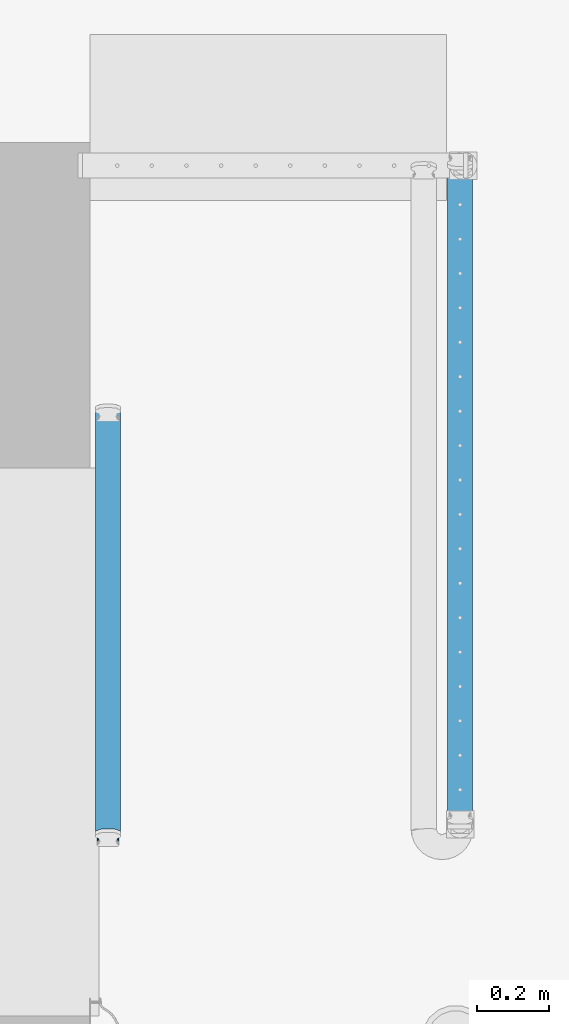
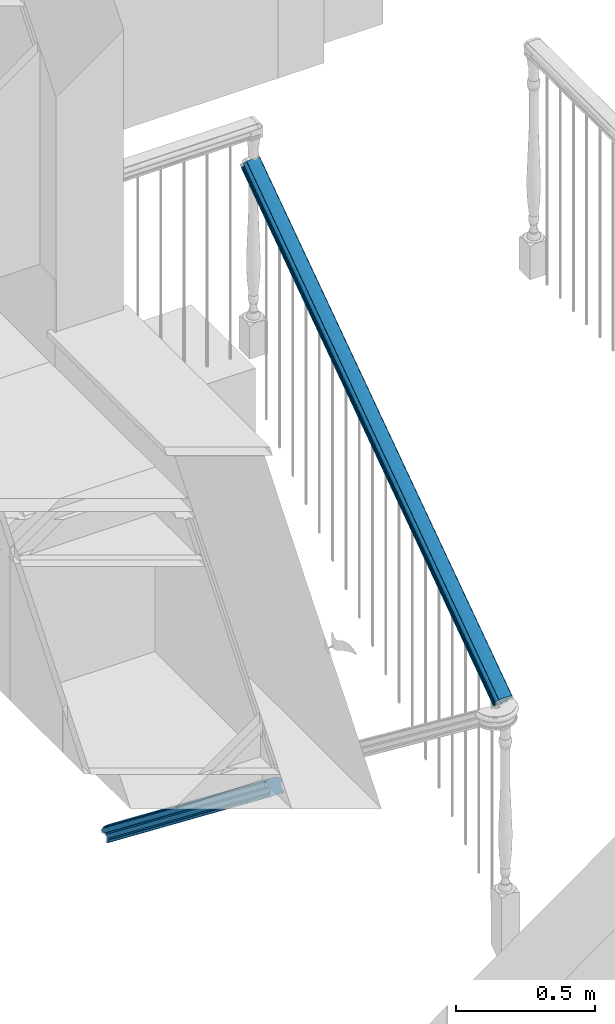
# One storey, part 12 of 77: 2 building element parts, 2 elements without a shape of their own.
"""IFC2X3 building model written with IfcOpenShell, lengths in inches."""

from ifc_helpers import new_model, entity, si_unit, converted_unit, derived_unit, money_unit, direction, frame, origin_with_axes, place, context, subcontext, project, spatial, faceted_brep, material, type_object, element, aggregate, save


model = new_model("IFC2X3")

# Units and contexts
model_context = context("Model", 3, precision=0.000393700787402, world=origin_with_axes(), true_north=direction((0.0, 1.0)))
body_context = subcontext(model_context, "Body", "Model", "MODEL_VIEW")
ifc_project = project(units=[converted_unit("LENGTHUNIT", "INCH", entity("IfcPositiveLengthMeasure", 0.0254), si_unit("LENGTHUNIT", "METRE"), dimensions=[1, 0, 0, 0, 0, 0, 0]), converted_unit("AREAUNIT", "SQUARE_FOOT", entity("IfcPositiveLengthMeasure", 0.09290304), si_unit("AREAUNIT", "SQUARE_METRE"), dimensions=[2, 0, 0, 0, 0, 0, 0]), si_unit("PLANEANGLEUNIT", "RADIAN"), si_unit("SOLIDANGLEUNIT", "STERADIAN"), money_unit("USD"), converted_unit("TIMEUNIT", "Year", entity("IfcTimeMeasure", 31556926.0), si_unit("TIMEUNIT", "SECOND"), dimensions=[0, 0, 1, 0, 0, 0, 0]), si_unit("MASSUNIT", "GRAM", prefix="KILO"), si_unit("THERMODYNAMICTEMPERATUREUNIT", "DEGREE_CELSIUS"), si_unit("LUMINOUSINTENSITYUNIT", "LUMEN"), si_unit("ENERGYUNIT", "JOULE", prefix="MEGA"), derived_unit("THERMALCONDUCTANCEUNIT", [(si_unit("POWERUNIT", "WATT"), 1), (si_unit("LENGTHUNIT", "METRE"), -1), (si_unit("THERMODYNAMICTEMPERATUREUNIT", "KELVIN"), -1)]), derived_unit("SPECIFICHEATCAPACITYUNIT", [(si_unit("ENERGYUNIT", "JOULE"), 1), (si_unit("MASSUNIT", "GRAM", prefix="KILO"), -1), (si_unit("THERMODYNAMICTEMPERATUREUNIT", "KELVIN"), -1)]), derived_unit("MASSDENSITYUNIT", [(si_unit("MASSUNIT", "GRAM", prefix="KILO"), 1), (si_unit("VOLUMEUNIT", "CUBIC_METRE"), -1)])], contexts=[model_context])

# Site, building, storey
site_placement = place(None, origin_with_axes())
site = spatial("IfcSite", under=ifc_project, at=site_placement, Name="Site", CompositionType="ELEMENT")
building_placement = place(site_placement, origin_with_axes())
building = spatial("IfcBuilding", under=site, at=building_placement, Name="Building", CompositionType="ELEMENT")
storey_placement = place(building_placement, frame((0.0, 0.0, 127.952755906), z_axis=(0.0, 0.0, 1.0), x_axis=(1.0, 0.0, 0.0)))
storey = spatial("IfcBuildingStorey", under=building, at=storey_placement, Name="Second Floor", CompositionType="ELEMENT", Elevation=127.953)

# Railing, building element part
railing_type = type_object("IfcRailingType", Name="Railing Type", PredefinedType="NOTDEFINED")
railing_1_placement = place(storey_placement, frame((643.989643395, 72.4015497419, -92.1176470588), z_axis=(0.0, 0.0, 1.0), x_axis=(-1.0, 0.0, 0.0)))
railing_1 = element("IfcRailing", 1, at=railing_1_placement, inside=storey, type_object=railing_type, Name="RAILING - 001", PredefinedType="NOTDEFINED")
ifc_material = material(Name="Wood - Structural")
building_element_part_1_placement = place(railing_1_placement, origin_with_axes())
building_element_part_1 = element("IfcBuildingElementPart", 2, at=building_element_part_1_placement, material=ifc_material, Name="Wood - Structural", context=body_context, shape_type="Brep", body=[
    faceted_brep([(-2.95870018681, 0.075407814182, 75.7856225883), (-2.95870018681, 0.150815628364, 75.6888922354), (-2.9587001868, -45.8777385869, 39.8065392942), (-2.9587001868, -45.9531464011, 39.9032696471), (-2.90015196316, 0.0666488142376, 75.7968583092), (-2.53034410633, 0.0240545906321, 75.8514966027), (-2.15626030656, 0.00267612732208, 75.8789201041), (-1.78074756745, 0.00267612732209, 75.8789201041), (-1.40666376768, 0.0240545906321, 75.8514966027), (-1.03685591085, 0.0666488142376, 75.7968583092), (-0.97830768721, 0.0754078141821, 75.7856225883), (-0.97830768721, 0.150815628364, 75.6888922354), (-0.944769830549, 0.151772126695, 75.6876652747), (-0.878713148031, 0.159380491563, 75.6779055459), (-0.815682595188, 0.174366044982, 75.6586826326), (-0.757593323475, 0.196273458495, 75.6305806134), (-0.706210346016, 0.224437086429, 75.5944533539), (-0.663094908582, 0.258001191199, 75.5513985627), (-0.629557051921, 0.295945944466, 75.5027244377), (-0.606615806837, 0.337118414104, 75.4499099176), (-0.594968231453, 0.380267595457, 75.3945597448), (-0.594968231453, 0.424082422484, 75.3383557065), (-0.606615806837, 0.467231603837, 75.2830055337), (-0.629557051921, 0.508404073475, 75.2301910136), (-0.663094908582, 0.546348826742, 75.1815168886), (-0.706210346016, 0.579912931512, 75.1384620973), (-0.757593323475, 0.608076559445, 75.1023348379), (-0.815682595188, 0.629983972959, 75.0742328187), (-0.878713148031, 0.644969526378, 75.0550099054), (-0.944769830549, 0.652577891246, 75.0452501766), (-0.97830768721, 0.653534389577, 75.0440232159), (-0.97830768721, 0.77921407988, 74.8828059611), (-1.00088455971, 0.798547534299, 74.8580057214), (-1.04067773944, 0.843569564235, 74.8002531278), (-1.06789787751, 0.892421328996, 74.7375878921), (-1.08171790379, 0.943618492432, 74.6719140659), (-1.08171790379, 0.995605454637, 74.605227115), (-1.06789787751, 1.04680261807, 74.5395532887), (-1.04067773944, 1.09565438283, 74.4768880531), (-1.00088455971, 1.14067641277, 74.4191354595), (-0.97830768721, 1.16000986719, 74.3943352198), (-0.97830768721, 1.28568955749, 74.2331179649), (-0.96153875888, 1.28616780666, 74.2325044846), (-0.928510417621, 1.28997198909, 74.2276246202), (-0.896995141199, 1.2974647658, 74.2180131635), (-0.867950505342, 1.30841847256, 74.203962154), (-0.842259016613, 1.32250028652, 74.1858985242), (-0.820701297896, 1.33928233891, 74.1643711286), (-0.803932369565, 1.35825471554, 74.1400340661), (-0.792461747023, 1.37884095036, 74.113626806), (-0.786637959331, 1.40041554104, 74.0859517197), (-0.786637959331, 1.42232295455, 74.0578497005), (-0.792461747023, 1.44389754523, 74.0301746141), (-0.803932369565, 1.46448378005, 74.0037673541), (-0.820701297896, 1.48345615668, 73.9794302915), (-0.842259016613, 1.50023820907, 73.9579028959), (-0.867950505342, 1.51432002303, 73.9398392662), (-0.896995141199, 1.52527372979, 73.9257882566), (-0.928510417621, 1.5327665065, 73.9161768), (-0.96153875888, 1.53657068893, 73.9112969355), (-0.97830768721, 1.5370489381, 73.9106834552), (-2.95870018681, 1.5370489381, 73.9106834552), (-2.97546911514, 1.53657068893, 73.9112969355), (-3.0084974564, 1.5327665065, 73.9161768), (-3.04001273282, 1.52527372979, 73.9257882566), (-3.06905736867, 1.51432002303, 73.9398392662), (-3.0947488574, 1.50023820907, 73.9579028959), (-3.11630657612, 1.48345615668, 73.9794302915), (-3.13307550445, 1.46448378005, 74.0037673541), (-3.14454612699, 1.44389754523, 74.0301746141), (-3.15036991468, 1.42232295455, 74.0578497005), (-3.15036991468, 1.40041554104, 74.0859517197), (-3.14454612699, 1.37884095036, 74.113626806), (-3.13307550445, 1.35825471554, 74.1400340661), (-3.11630657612, 1.33928233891, 74.1643711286), (-3.0947488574, 1.32250028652, 74.1858985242), (-3.06905736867, 1.30841847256, 74.203962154), (-3.04001273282, 1.2974647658, 74.2180131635), (-3.0084974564, 1.28997198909, 74.2276246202), (-2.97546911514, 1.28616780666, 74.2325044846), (-2.95870018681, 1.28568955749, 74.2331179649), (-2.95870018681, 1.16000986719, 74.3943352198), (-2.93612331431, 1.14067641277, 74.4191354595), (-2.89633013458, 1.09565438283, 74.4768880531), (-2.86910999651, 1.04680261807, 74.5395532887), (-2.85528997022, 0.995605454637, 74.605227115), (-2.85528997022, 0.943618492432, 74.6719140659), (-2.86910999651, 0.892421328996, 74.7375878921), (-2.89633013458, 0.843569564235, 74.8002531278), (-2.93612331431, 0.798547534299, 74.8580057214), (-2.95870018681, 0.77921407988, 74.8828059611), (-2.95870018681, 0.653534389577, 75.0440232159), (-2.99223804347, 0.652577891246, 75.0452501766), (-3.05829472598, 0.644969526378, 75.0550099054), (-3.12132527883, 0.629983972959, 75.0742328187), (-3.17941455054, 0.608076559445, 75.1023348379), (-3.230797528, 0.579912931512, 75.1384620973), (-3.27391296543, 0.546348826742, 75.1815168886), (-3.30745082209, 0.508404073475, 75.2301910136), (-3.33039206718, 0.467231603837, 75.2830055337), (-3.34203964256, 0.424082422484, 75.3383557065), (-3.34203964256, 0.380267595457, 75.3945597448), (-3.33039206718, 0.337118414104, 75.4499099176), (-3.30745082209, 0.295945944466, 75.5027244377), (-3.27391296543, 0.258001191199, 75.5513985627), (-3.230797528, 0.224437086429, 75.5944533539), (-3.17941455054, 0.196273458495, 75.6305806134), (-3.12132527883, 0.174366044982, 75.6586826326), (-3.05829472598, 0.159380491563, 75.6779055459), (-2.99223804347, 0.151772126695, 75.6876652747), (-2.99223804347, -45.8767820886, 39.8053123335), (-3.05829472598, -45.8691737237, 39.7955526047), (-3.12132527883, -45.8541881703, 39.7763296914), (-3.17941455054, -45.8322807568, 39.7482276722), (-3.230797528, -45.8041171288, 39.7121004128), (-3.27391296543, -45.7705530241, 39.6690456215), (-3.30745082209, -45.7326082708, 39.6203714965), (-3.33039206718, -45.6914358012, 39.5675569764), (-3.34203964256, -45.6482866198, 39.5122068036), (-3.34203964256, -45.6044717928, 39.4560027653), (-3.33039206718, -45.5613226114, 39.4006525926), (-3.30745082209, -45.5201501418, 39.3478380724), (-3.27391296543, -45.4822053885, 39.2991639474), (-3.230797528, -45.4486412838, 39.2561091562), (-3.17941455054, -45.4204776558, 39.2199818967), (-3.12132527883, -45.3985702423, 39.1918798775), (-3.05829472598, -45.3835846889, 39.1726569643), (-2.99223804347, -45.375976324, 39.1628972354), (-2.9587001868, -45.3750198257, 39.1616702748), (-2.9587001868, -45.2493401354, 39.0004530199), (-2.93612331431, -45.230006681, 38.9756527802), (-2.89633013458, -45.184984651, 38.9179001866), (-2.86910999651, -45.1361328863, 38.855234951), (-2.85528997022, -45.0849357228, 38.7895611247), (-2.85528997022, -45.0329487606, 38.7228741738), (-2.86910999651, -44.9817515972, 38.6572003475), (-2.89633013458, -44.9328998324, 38.5945351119), (-2.93612331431, -44.8878778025, 38.5367825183), (-2.9587001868, -44.8685443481, 38.5119822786), (-2.9587001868, -44.7428646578, 38.3507650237), (-2.97546911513, -44.7423864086, 38.3501515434), (-3.00849745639, -44.7385822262, 38.345271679), (-3.04001273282, -44.7310894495, 38.3356602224), (-3.06905736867, -44.7201357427, 38.3216092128), (-3.0947488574, -44.7060539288, 38.303545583), (-3.11630657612, -44.6892718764, 38.2820181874), (-3.13307550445, -44.6702994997, 38.2576811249), (-3.14454612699, -44.6497132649, 38.2312738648), (-3.15036991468, -44.6281386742, 38.2035987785), (-3.15036991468, -44.6062312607, 38.1754967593), (-3.14454612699, -44.5846566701, 38.1478216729), (-3.13307550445, -44.5640704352, 38.1214144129), (-3.11630657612, -44.5450980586, 38.0970773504), (-3.0947488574, -44.5283160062, 38.0755499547), (-3.06905736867, -44.5142341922, 38.057486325), (-3.04001273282, -44.5032804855, 38.0434353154), (-3.00849745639, -44.4957877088, 38.0338238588), (-2.97546911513, -44.4919835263, 38.0289439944), (-2.9587001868, -44.4915052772, 38.028330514), (-0.978307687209, -44.4915052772, 38.028330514), (-0.961538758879, -44.4919835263, 38.0289439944), (-0.92851041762, -44.4957877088, 38.0338238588), (-0.896995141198, -44.5032804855, 38.0434353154), (-0.867950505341, -44.5142341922, 38.057486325), (-0.842259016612, -44.5283160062, 38.0755499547), (-0.820701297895, -44.5450980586, 38.0970773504), (-0.803932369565, -44.5640704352, 38.1214144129), (-0.792461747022, -44.5846566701, 38.1478216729), (-0.78663795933, -44.6062312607, 38.1754967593), (-0.78663795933, -44.6281386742, 38.2035987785), (-0.792461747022, -44.6497132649, 38.2312738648), (-0.803932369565, -44.6702994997, 38.2576811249), (-0.820701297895, -44.6892718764, 38.2820181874), (-0.842259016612, -44.7060539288, 38.303545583), (-0.867950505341, -44.7201357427, 38.3216092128), (-0.896995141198, -44.7310894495, 38.3356602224), (-0.92851041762, -44.7385822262, 38.345271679), (-0.961538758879, -44.7423864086, 38.3501515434), (-0.978307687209, -44.7428646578, 38.3507650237), (-0.978307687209, -44.8685443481, 38.5119822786), (-1.00088455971, -44.8878778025, 38.5367825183), (-1.04067773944, -44.9328998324, 38.5945351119), (-1.06789787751, -44.9817515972, 38.6572003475), (-1.08171790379, -45.0329487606, 38.7228741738), (-1.08171790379, -45.0849357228, 38.7895611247), (-1.06789787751, -45.1361328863, 38.855234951), (-1.04067773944, -45.184984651, 38.9179001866), (-1.00088455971, -45.230006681, 38.9756527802), (-0.978307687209, -45.2493401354, 39.0004530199), (-0.978307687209, -45.3750198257, 39.1616702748), (-0.944769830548, -45.375976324, 39.1628972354), (-0.87871314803, -45.3835846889, 39.1726569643), (-0.815682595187, -45.3985702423, 39.1918798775), (-0.757593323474, -45.4204776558, 39.2199818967), (-0.706210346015, -45.4486412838, 39.2561091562), (-0.663094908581, -45.4822053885, 39.2991639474), (-0.62955705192, -45.5201501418, 39.3478380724), (-0.606615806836, -45.5613226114, 39.4006525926), (-0.594968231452, -45.6044717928, 39.4560027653), (-0.594968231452, -45.6482866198, 39.5122068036), (-0.606615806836, -45.6914358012, 39.5675569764), (-0.62955705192, -45.7326082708, 39.6203714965), (-0.663094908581, -45.7705530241, 39.6690456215), (-0.706210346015, -45.8041171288, 39.7121004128), (-0.757593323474, -45.8322807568, 39.7482276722), (-0.815682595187, -45.8541881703, 39.7763296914), (-0.87871314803, -45.8691737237, 39.7955526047), (-0.944769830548, -45.8767820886, 39.8053123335), (-0.978307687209, -45.8777385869, 39.8065392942), (-0.978307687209, -45.9531464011, 39.9032696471), (-1.03685591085, -45.961905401, 39.914505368), (-1.40666376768, -46.0044996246, 39.9691436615), (-1.78074756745, -46.025878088, 39.9965671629), (-2.15626030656, -46.025878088, 39.9965671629), (-2.53034410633, -46.0044996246, 39.9691436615), (-2.90015196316, -45.961905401, 39.914505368)], [[[0, 1, 2, 3]], [[0, 4, 5, 6, 7, 8, 9, 10, 11, 12, 13, 14, 15, 16, 17, 18, 19, 20, 21, 22, 23, 24, 25, 26, 27, 28, 29, 30, 31, 32, 33, 34, 35, 36, 37, 38, 39, 40, 41, 42, 43, 44, 45, 46, 47, 48, 49, 50, 51, 52, 53, 54, 55, 56, 57, 58, 59, 60, 61, 62, 63, 64, 65, 66, 67, 68, 69, 70, 71, 72, 73, 74, 75, 76, 77, 78, 79, 80, 81, 82, 83, 84, 85, 86, 87, 88, 89, 90, 91, 92, 93, 94, 95, 96, 97, 98, 99, 100, 101, 102, 103, 104, 105, 106, 107, 108, 109, 1]], [[1, 109, 110, 2]], [[3, 2, 110, 111, 112, 113, 114, 115, 116, 117, 118, 119, 120, 121, 122, 123, 124, 125, 126, 127, 128, 129, 130, 131, 132, 133, 134, 135, 136, 137, 138, 139, 140, 141, 142, 143, 144, 145, 146, 147, 148, 149, 150, 151, 152, 153, 154, 155, 156, 157, 158, 159, 160, 161, 162, 163, 164, 165, 166, 167, 168, 169, 170, 171, 172, 173, 174, 175, 176, 177, 178, 179, 180, 181, 182, 183, 184, 185, 186, 187, 188, 189, 190, 191, 192, 193, 194, 195, 196, 197, 198, 199, 200, 201, 202, 203, 204, 205, 206, 207, 208, 209, 210, 211, 212, 213, 214, 215]], [[4, 0, 3, 215]], [[5, 4, 215, 214]], [[6, 5, 214, 213]], [[7, 6, 213, 212]], [[8, 7, 212, 211]], [[9, 8, 211, 210]], [[10, 9, 210, 209]], [[11, 10, 209, 208]], [[12, 11, 208, 207]], [[13, 12, 207, 206]], [[14, 13, 206, 205]], [[15, 14, 205, 204]], [[16, 15, 204, 203]], [[17, 16, 203, 202]], [[18, 17, 202, 201]], [[19, 18, 201, 200]], [[20, 19, 200, 199]], [[21, 20, 199, 198]], [[22, 21, 198, 197]], [[23, 22, 197, 196]], [[24, 23, 196, 195]], [[25, 24, 195, 194]], [[26, 25, 194, 193]], [[27, 26, 193, 192]], [[28, 27, 192, 191]], [[29, 28, 191, 190]], [[30, 29, 190, 189]], [[31, 30, 189, 188]], [[32, 31, 188, 187]], [[33, 32, 187, 186]], [[34, 33, 186, 185]], [[35, 34, 185, 184]], [[36, 35, 184, 183]], [[37, 36, 183, 182]], [[38, 37, 182, 181]], [[39, 38, 181, 180]], [[40, 39, 180, 179]], [[41, 40, 179, 178]], [[42, 41, 178, 177]], [[43, 42, 177, 176]], [[44, 43, 176, 175]], [[45, 44, 175, 174]], [[46, 45, 174, 173]], [[47, 46, 173, 172]], [[48, 47, 172, 171]], [[49, 48, 171, 170]], [[50, 49, 170, 169]], [[51, 50, 169, 168]], [[52, 51, 168, 167]], [[53, 52, 167, 166]], [[54, 53, 166, 165]], [[55, 54, 165, 164]], [[56, 55, 164, 163]], [[57, 56, 163, 162]], [[58, 57, 162, 161]], [[59, 58, 161, 160]], [[60, 59, 160, 159]], [[61, 60, 159, 158]], [[62, 61, 158, 157]], [[63, 62, 157, 156]], [[64, 63, 156, 155]], [[65, 64, 155, 154]], [[66, 65, 154, 153]], [[67, 66, 153, 152]], [[68, 67, 152, 151]], [[69, 68, 151, 150]], [[70, 69, 150, 149]], [[71, 70, 149, 148]], [[72, 71, 148, 147]], [[73, 72, 147, 146]], [[74, 73, 146, 145]], [[75, 74, 145, 144]], [[76, 75, 144, 143]], [[77, 76, 143, 142]], [[78, 77, 142, 141]], [[79, 78, 141, 140]], [[80, 79, 140, 139]], [[81, 80, 139, 138]], [[82, 81, 138, 137]], [[83, 82, 137, 136]], [[84, 83, 136, 135]], [[85, 84, 135, 134]], [[86, 85, 134, 133]], [[87, 86, 133, 132]], [[88, 87, 132, 131]], [[89, 88, 131, 130]], [[90, 89, 130, 129]], [[91, 90, 129, 128]], [[92, 91, 128, 127]], [[93, 92, 127, 126]], [[94, 93, 126, 125]], [[95, 94, 125, 124]], [[96, 95, 124, 123]], [[97, 96, 123, 122]], [[98, 97, 122, 121]], [[99, 98, 121, 120]], [[100, 99, 120, 119]], [[101, 100, 119, 118]], [[102, 101, 118, 117]], [[103, 102, 117, 116]], [[104, 103, 116, 115]], [[105, 104, 115, 114]], [[106, 105, 114, 113]], [[107, 106, 113, 112]], [[108, 107, 112, 111]], [[109, 108, 111, 110]]]),
])
aggregate(railing_1, [building_element_part_1])

railing_2_placement = place(storey_placement, frame((682.459998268, 144.881628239, -56.1089279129), z_axis=(0.0, 0.0, 1.0), x_axis=(-1.0, 0.0, 0.0)))
railing_2 = element("IfcRailing", 3, at=railing_2_placement, inside=storey, type_object=railing_type, Name="RAILING - 001", PredefinedType="NOTDEFINED")
building_element_part_2_placement = place(railing_2_placement, origin_with_axes())
building_element_part_2 = element("IfcBuildingElementPart", 4, at=building_element_part_2_placement, material=ifc_material, Name="Wood - Structural", context=body_context, shape_type="Brep", body=[
    faceted_brep([(-0.97830768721, 0.439994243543, 89.6653057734), (-0.97830768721, 0.369904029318, 89.5646555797), (-0.978307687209, 71.8342755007, 39.7986996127), (-0.978307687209, 71.9043657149, 39.8993498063), (-1.03685591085, 0.448135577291, 89.6769968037), (-1.40666376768, 0.487726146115, 89.7338492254), (-1.78074756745, 0.507597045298, 89.7623840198), (-2.15626030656, 0.507597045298, 89.7623840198), (-2.53034410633, 0.487726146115, 89.7338492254), (-2.90015196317, 0.448135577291, 89.6769968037), (-2.95870018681, 0.439994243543, 89.6653057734), (-2.95870018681, 0.369904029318, 89.5646555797), (-2.99223804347, 0.369014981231, 89.5633788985), (-3.05829472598, 0.361943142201, 89.5532236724), (-3.12132527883, 0.348014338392, 89.5332217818), (-3.17941455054, 0.327651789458, 89.5039809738), (-3.230797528, 0.301474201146, 89.4663897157), (-3.27391296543, 0.270276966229, 89.4215901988), (-3.30745082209, 0.235007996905, 89.3709436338), (-3.33039206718, 0.196738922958, 89.3159888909), (-3.34203964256, 0.156632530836, 89.2583957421), (-3.34203964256, 0.115907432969, 89.1999141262), (-3.33039206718, 0.075801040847, 89.1423209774), (-3.30745082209, 0.0375319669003, 89.0873662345), (-3.27391296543, 0.00226299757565, 89.0367196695), (-3.230797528, -0.028934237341, 88.9919201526), (-3.17941455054, -0.0551118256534, 88.9543288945), (-3.12132527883, -0.075474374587, 88.9250880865), (-3.05829472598, -0.0894031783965, 88.9050861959), (-2.99223804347, -0.0964750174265, 88.8949309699), (-2.95870018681, -0.097364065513, 88.8936542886), (-2.95870018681, -0.214181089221, 88.7259039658), (-2.93612331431, -0.232151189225, 88.7000987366), (-2.89633013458, -0.273998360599, 88.6400058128), (-2.86910999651, -0.319405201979, 88.5748011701), (-2.85528997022, -0.366992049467, 88.5064660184), (-2.85528997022, -0.415313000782, 88.437076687), (-2.86910999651, -0.46289984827, 88.3687415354), (-2.89633013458, -0.50830668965, 88.3035368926), (-2.93612331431, -0.550153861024, 88.2434439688), (-2.95870018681, -0.568123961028, 88.2176387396), (-2.95870018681, -0.684940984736, 88.0498884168), (-2.97546911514, -0.685385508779, 88.0492500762), (-3.0084974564, -0.688921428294, 88.0441724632), (-3.04001273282, -0.695885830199, 88.0341715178), (-3.06905736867, -0.706067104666, 88.0195511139), (-3.0947488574, -0.719155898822, 88.0007554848), (-3.11630657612, -0.73475451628, 87.9783557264), (-3.13307550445, -0.752389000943, 87.9530324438), (-3.14454612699, -0.771523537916, 87.9255550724), (-3.15036991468, -0.791576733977, 87.896758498), (-3.15036991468, -0.811939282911, 87.8675176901), (-3.14454612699, -0.831992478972, 87.8387211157), (-3.13307550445, -0.851127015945, 87.8112437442), (-3.11630657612, -0.868761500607, 87.7859204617), (-3.0947488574, -0.884360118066, 87.7635207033), (-3.06905736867, -0.897448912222, 87.7447250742), (-3.04001273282, -0.907630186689, 87.7301046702), (-3.0084974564, -0.914594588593, 87.7201037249), (-2.97546911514, -0.918130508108, 87.7150261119), (-2.95870018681, -0.918575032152, 87.7143877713), (-0.97830768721, -0.918575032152, 87.7143877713), (-0.96153875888, -0.918130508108, 87.7150261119), (-0.928510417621, -0.914594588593, 87.7201037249), (-0.896995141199, -0.907630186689, 87.7301046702), (-0.867950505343, -0.897448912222, 87.7447250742), (-0.842259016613, -0.884360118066, 87.7635207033), (-0.820701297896, -0.868761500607, 87.7859204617), (-0.803932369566, -0.851127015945, 87.8112437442), (-0.792461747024, -0.831992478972, 87.8387211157), (-0.786637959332, -0.811939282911, 87.8675176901), (-0.786637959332, -0.791576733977, 87.896758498), (-0.792461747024, -0.771523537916, 87.9255550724), (-0.803932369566, -0.752389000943, 87.9530324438), (-0.820701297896, -0.73475451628, 87.9783557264), (-0.842259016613, -0.719155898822, 88.0007554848), (-0.867950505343, -0.706067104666, 88.0195511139), (-0.896995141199, -0.695885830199, 88.0341715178), (-0.928510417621, -0.688921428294, 88.0441724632), (-0.96153875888, -0.685385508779, 88.0492500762), (-0.97830768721, -0.684940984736, 88.0498884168), (-0.97830768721, -0.568123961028, 88.2176387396), (-1.00088455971, -0.550153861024, 88.2434439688), (-1.04067773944, -0.50830668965, 88.3035368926), (-1.06789787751, -0.46289984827, 88.3687415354), (-1.08171790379, -0.415313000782, 88.437076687), (-1.08171790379, -0.366992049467, 88.5064660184), (-1.06789787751, -0.319405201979, 88.5748011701), (-1.04067773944, -0.273998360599, 88.6400058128), (-1.00088455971, -0.232151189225, 88.7000987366), (-0.97830768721, -0.214181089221, 88.7259039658), (-0.97830768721, -0.097364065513, 88.8936542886), (-0.944769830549, -0.0964750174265, 88.8949309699), (-0.878713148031, -0.0894031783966, 88.9050861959), (-0.815682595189, -0.0754743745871, 88.9250880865), (-0.757593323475, -0.0551118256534, 88.9543288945), (-0.706210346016, -0.0289342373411, 88.9919201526), (-0.663094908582, 0.00226299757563, 89.0367196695), (-0.629557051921, 0.0375319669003, 89.0873662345), (-0.606615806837, 0.0758010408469, 89.1423209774), (-0.594968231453, 0.115907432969, 89.1999141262), (-0.594968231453, 0.156632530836, 89.2583957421), (-0.606615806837, 0.196738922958, 89.3159888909), (-0.629557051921, 0.235007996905, 89.3709436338), (-0.663094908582, 0.270276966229, 89.4215901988), (-0.706210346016, 0.301474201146, 89.4663897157), (-0.757593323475, 0.327651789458, 89.5039809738), (-0.815682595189, 0.348014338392, 89.5332217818), (-0.878713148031, 0.361943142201, 89.5532236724), (-0.944769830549, 0.369014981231, 89.5633788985), (-0.944769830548, 71.8333864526, 39.7974229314), (-0.87871314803, 71.8263146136, 39.7872677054), (-0.815682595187, 71.8123858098, 39.7672658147), (-0.757593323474, 71.7920232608, 39.7380250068), (-0.706210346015, 71.7658456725, 39.7004337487), (-0.663094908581, 71.7346484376, 39.6556342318), (-0.62955705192, 71.6993794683, 39.6049876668), (-0.606615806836, 71.6611103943, 39.5500329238), (-0.594968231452, 71.6210040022, 39.4924397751), (-0.594968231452, 71.5802789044, 39.4339581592), (-0.606615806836, 71.5401725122, 39.3763650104), (-0.62955705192, 71.5019034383, 39.3214102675), (-0.663094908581, 71.466634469, 39.2707637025), (-0.706210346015, 71.435437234, 39.2259641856), (-0.757593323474, 71.4092596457, 39.1883729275), (-0.815682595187, 71.3888970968, 39.1591321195), (-0.87871314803, 71.374968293, 39.1391302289), (-0.944769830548, 71.367896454, 39.1289750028), (-0.978307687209, 71.3670074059, 39.1276983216), (-0.978307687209, 71.2501903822, 38.9599479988), (-1.00088455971, 71.2322202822, 38.9341427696), (-1.04067773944, 71.1903731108, 38.8740498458), (-1.06789787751, 71.1449662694, 38.808845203), (-1.08171790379, 71.0973794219, 38.7405100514), (-1.08171790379, 71.0490584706, 38.6711207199), (-1.06789787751, 71.0014716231, 38.6027855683), (-1.04067773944, 70.9560647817, 38.5375809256), (-1.00088455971, 70.9142176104, 38.4774880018), (-0.978307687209, 70.8962475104, 38.4516827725), (-0.978307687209, 70.7794304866, 38.2839324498), (-0.961538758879, 70.7789859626, 38.2832941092), (-0.92851041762, 70.7754500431, 38.2782164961), (-0.896995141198, 70.7684856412, 38.2682155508), (-0.867950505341, 70.7583043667, 38.2535951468), (-0.842259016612, 70.7452155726, 38.2347995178), (-0.820701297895, 70.7296169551, 38.2123997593), (-0.803932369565, 70.7119824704, 38.1870764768), (-0.792461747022, 70.6928479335, 38.1595991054), (-0.78663795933, 70.6727947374, 38.130802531), (-0.78663795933, 70.6524321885, 38.101561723), (-0.792461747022, 70.6323789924, 38.0727651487), (-0.803932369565, 70.6132444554, 38.0452877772), (-0.820701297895, 70.5956099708, 38.0199644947), (-0.842259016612, 70.5800113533, 37.9975647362), (-0.867950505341, 70.5669225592, 37.9787691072), (-0.896995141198, 70.5567412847, 37.9641487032), (-0.92851041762, 70.5497768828, 37.9541477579), (-0.961538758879, 70.5462409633, 37.9490701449), (-0.978307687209, 70.5457964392, 37.9484318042), (-2.9587001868, 70.5457964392, 37.9484318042), (-2.97546911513, 70.5462409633, 37.9490701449), (-3.00849745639, 70.5497768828, 37.9541477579), (-3.04001273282, 70.5567412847, 37.9641487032), (-3.06905736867, 70.5669225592, 37.9787691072), (-3.0947488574, 70.5800113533, 37.9975647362), (-3.11630657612, 70.5956099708, 38.0199644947), (-3.13307550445, 70.6132444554, 38.0452877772), (-3.14454612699, 70.6323789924, 38.0727651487), (-3.15036991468, 70.6524321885, 38.101561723), (-3.15036991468, 70.6727947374, 38.130802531), (-3.14454612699, 70.6928479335, 38.1595991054), (-3.13307550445, 70.7119824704, 38.1870764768), (-3.11630657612, 70.7296169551, 38.2123997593), (-3.0947488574, 70.7452155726, 38.2347995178), (-3.06905736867, 70.7583043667, 38.2535951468), (-3.04001273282, 70.7684856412, 38.2682155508), (-3.00849745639, 70.7754500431, 38.2782164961), (-2.97546911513, 70.7789859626, 38.2832941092), (-2.9587001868, 70.7794304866, 38.2839324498), (-2.9587001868, 70.8962475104, 38.4516827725), (-2.93612331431, 70.9142176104, 38.4774880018), (-2.89633013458, 70.9560647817, 38.5375809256), (-2.86910999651, 71.0014716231, 38.6027855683), (-2.85528997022, 71.0490584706, 38.6711207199), (-2.85528997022, 71.0973794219, 38.7405100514), (-2.86910999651, 71.1449662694, 38.808845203), (-2.89633013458, 71.1903731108, 38.8740498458), (-2.93612331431, 71.2322202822, 38.9341427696), (-2.9587001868, 71.2501903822, 38.9599479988), (-2.9587001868, 71.3670074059, 39.1276983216), (-2.99223804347, 71.367896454, 39.1289750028), (-3.05829472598, 71.374968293, 39.1391302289), (-3.12132527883, 71.3888970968, 39.1591321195), (-3.17941455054, 71.4092596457, 39.1883729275), (-3.230797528, 71.435437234, 39.2259641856), (-3.27391296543, 71.466634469, 39.2707637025), (-3.30745082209, 71.5019034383, 39.3214102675), (-3.33039206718, 71.5401725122, 39.3763650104), (-3.34203964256, 71.5802789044, 39.4339581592), (-3.34203964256, 71.6210040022, 39.4924397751), (-3.33039206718, 71.6611103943, 39.5500329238), (-3.30745082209, 71.6993794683, 39.6049876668), (-3.27391296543, 71.7346484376, 39.6556342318), (-3.230797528, 71.7658456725, 39.7004337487), (-3.17941455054, 71.7920232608, 39.7380250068), (-3.12132527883, 71.8123858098, 39.7672658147), (-3.05829472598, 71.8263146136, 39.7872677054), (-2.99223804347, 71.8333864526, 39.7974229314), (-2.9587001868, 71.8342755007, 39.7986996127), (-2.9587001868, 71.9043657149, 39.8993498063), (-2.90015196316, 71.9125070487, 39.9110408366), (-2.53034410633, 71.9520976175, 39.9678932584), (-2.15626030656, 71.9719685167, 39.9964280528), (-1.78074756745, 71.9719685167, 39.9964280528), (-1.40666376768, 71.9520976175, 39.9678932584), (-1.03685591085, 71.9125070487, 39.9110408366)], [[[0, 1, 2, 3]], [[0, 4, 5, 6, 7, 8, 9, 10, 11, 12, 13, 14, 15, 16, 17, 18, 19, 20, 21, 22, 23, 24, 25, 26, 27, 28, 29, 30, 31, 32, 33, 34, 35, 36, 37, 38, 39, 40, 41, 42, 43, 44, 45, 46, 47, 48, 49, 50, 51, 52, 53, 54, 55, 56, 57, 58, 59, 60, 61, 62, 63, 64, 65, 66, 67, 68, 69, 70, 71, 72, 73, 74, 75, 76, 77, 78, 79, 80, 81, 82, 83, 84, 85, 86, 87, 88, 89, 90, 91, 92, 93, 94, 95, 96, 97, 98, 99, 100, 101, 102, 103, 104, 105, 106, 107, 108, 109, 1]], [[1, 109, 110, 2]], [[3, 2, 110, 111, 112, 113, 114, 115, 116, 117, 118, 119, 120, 121, 122, 123, 124, 125, 126, 127, 128, 129, 130, 131, 132, 133, 134, 135, 136, 137, 138, 139, 140, 141, 142, 143, 144, 145, 146, 147, 148, 149, 150, 151, 152, 153, 154, 155, 156, 157, 158, 159, 160, 161, 162, 163, 164, 165, 166, 167, 168, 169, 170, 171, 172, 173, 174, 175, 176, 177, 178, 179, 180, 181, 182, 183, 184, 185, 186, 187, 188, 189, 190, 191, 192, 193, 194, 195, 196, 197, 198, 199, 200, 201, 202, 203, 204, 205, 206, 207, 208, 209, 210, 211, 212, 213, 214, 215]], [[4, 0, 3, 215]], [[5, 4, 215, 214]], [[6, 5, 214, 213]], [[7, 6, 213, 212]], [[8, 7, 212, 211]], [[9, 8, 211, 210]], [[10, 9, 210, 209]], [[11, 10, 209, 208]], [[12, 11, 208, 207]], [[13, 12, 207, 206]], [[14, 13, 206, 205]], [[15, 14, 205, 204]], [[16, 15, 204, 203]], [[17, 16, 203, 202]], [[18, 17, 202, 201]], [[19, 18, 201, 200]], [[20, 19, 200, 199]], [[21, 20, 199, 198]], [[22, 21, 198, 197]], [[23, 22, 197, 196]], [[24, 23, 196, 195]], [[25, 24, 195, 194]], [[26, 25, 194, 193]], [[27, 26, 193, 192]], [[28, 27, 192, 191]], [[29, 28, 191, 190]], [[30, 29, 190, 189]], [[31, 30, 189, 188]], [[32, 31, 188, 187]], [[33, 32, 187, 186]], [[34, 33, 186, 185]], [[35, 34, 185, 184]], [[36, 35, 184, 183]], [[37, 36, 183, 182]], [[38, 37, 182, 181]], [[39, 38, 181, 180]], [[40, 39, 180, 179]], [[41, 40, 179, 178]], [[42, 41, 178, 177]], [[43, 42, 177, 176]], [[44, 43, 176, 175]], [[45, 44, 175, 174]], [[46, 45, 174, 173]], [[47, 46, 173, 172]], [[48, 47, 172, 171]], [[49, 48, 171, 170]], [[50, 49, 170, 169]], [[51, 50, 169, 168]], [[52, 51, 168, 167]], [[53, 52, 167, 166]], [[54, 53, 166, 165]], [[55, 54, 165, 164]], [[56, 55, 164, 163]], [[57, 56, 163, 162]], [[58, 57, 162, 161]], [[59, 58, 161, 160]], [[60, 59, 160, 159]], [[61, 60, 159, 158]], [[62, 61, 158, 157]], [[63, 62, 157, 156]], [[64, 63, 156, 155]], [[65, 64, 155, 154]], [[66, 65, 154, 153]], [[67, 66, 153, 152]], [[68, 67, 152, 151]], [[69, 68, 151, 150]], [[70, 69, 150, 149]], [[71, 70, 149, 148]], [[72, 71, 148, 147]], [[73, 72, 147, 146]], [[74, 73, 146, 145]], [[75, 74, 145, 144]], [[76, 75, 144, 143]], [[77, 76, 143, 142]], [[78, 77, 142, 141]], [[79, 78, 141, 140]], [[80, 79, 140, 139]], [[81, 80, 139, 138]], [[82, 81, 138, 137]], [[83, 82, 137, 136]], [[84, 83, 136, 135]], [[85, 84, 135, 134]], [[86, 85, 134, 133]], [[87, 86, 133, 132]], [[88, 87, 132, 131]], [[89, 88, 131, 130]], [[90, 89, 130, 129]], [[91, 90, 129, 128]], [[92, 91, 128, 127]], [[93, 92, 127, 126]], [[94, 93, 126, 125]], [[95, 94, 125, 124]], [[96, 95, 124, 123]], [[97, 96, 123, 122]], [[98, 97, 122, 121]], [[99, 98, 121, 120]], [[100, 99, 120, 119]], [[101, 100, 119, 118]], [[102, 101, 118, 117]], [[103, 102, 117, 116]], [[104, 103, 116, 115]], [[105, 104, 115, 114]], [[106, 105, 114, 113]], [[107, 106, 113, 112]], [[108, 107, 112, 111]], [[109, 108, 111, 110]]]),
])
aggregate(railing_2, [building_element_part_2])

save(model, "model.ifc")
